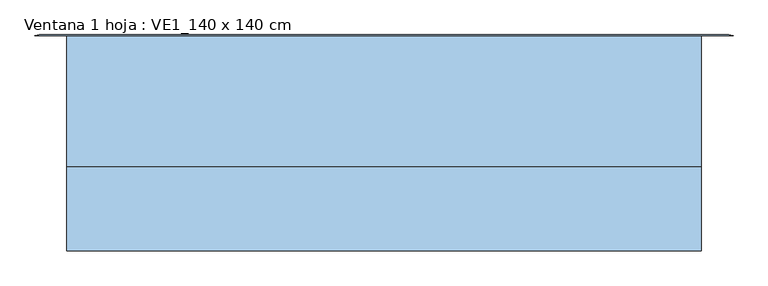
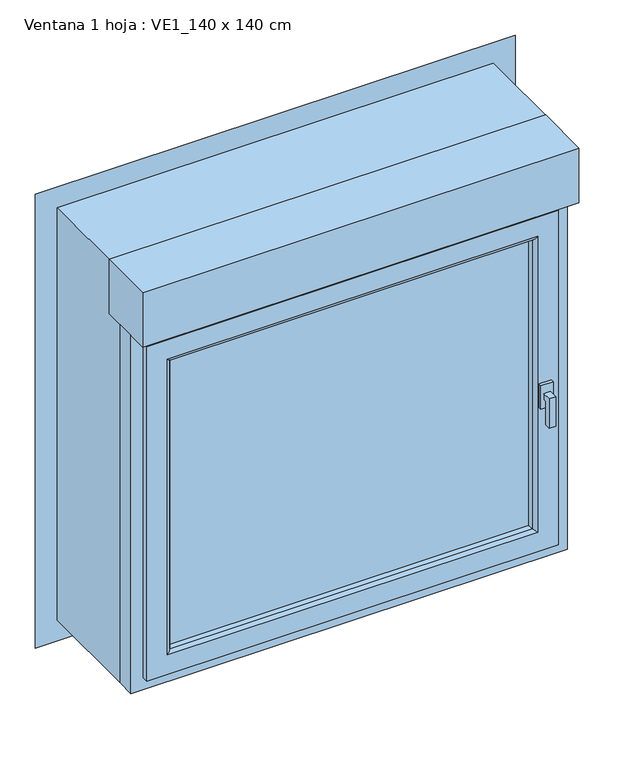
"""IFC4 building model written with IfcOpenShell, lengths in millimetres: window geometry, Ventana 1 hoja : VE1_140 x 140 cm."""

from ifc_helpers import new_model, si_unit, frame, origin, place, context, project, spatial, polyline, ellipse_curve, outline, extrude, source, transform, mapped, element, save
from ifc_brep_helpers import plane_surface, cylinder_surface, advanced_brep


def ventana_1_hoja_ve1_140_x_140_cm_f22eddc7(model_context):
    return source(origin(), model_context, "Body", "SolidModel", [
        extrude(outline(polyline([(-234.0, 1377.5), (-234.0, 1357.5), (-244.0, 1357.5), (-244.0, 1277.5), (-264.0, 1277.5), (-264.0, 1377.5), (-234.0, 1377.5)])), frame((608.5, 0.0, 0.0), z_axis=(1.0, 0.0, 0.0), x_axis=(0.0, 1.0, 0.0)), (0.0, 0.0, 1.0), 20.0),
        extrude(outline(polyline([(638.5, -234.0), (598.5, -234.0), (598.5, -224.0), (638.5, -224.0), (638.5, -234.0)])), frame((0.0, 0.0, 1327.5), z_axis=(0.0, 0.0, 1.0), x_axis=(1.0, 0.0, 0.0)), (0.0, 0.0, 1.0), 80.0),
        extrude(outline(polyline([(-599.0, -176.0), (599.0, -176.0), (599.0, -206.0), (-599.0, -206.0), (-599.0, -176.0)])), frame((0.0, 0.0, 901.0), z_axis=(0.0, 0.0, 1.0), x_axis=(1.0, 0.0, 0.0)), (0.0, 0.0, 1.0), 1013.0),
        advanced_brep(
        [(-638.0710678, -147.9289322, 1953.0710678), (-645.1421356, -145.0, 1960.1421356), (645.1421356, -145.0, 1960.1421356), (638.0710678, -147.9289322, 1953.0710678), (-631.6213203, -158.0, 1946.6213203), (631.6213203, -158.0, 1946.6213203), (-700.0, -145.0, 2015.0), (-700.0, -205.0, 2015.0), (700.0, -205.0, 2015.0), (700.0, -145.0, 2015.0), (645.1421356, -145.0, 854.8578644), (638.0710678, -147.9289322, 861.9289322), (631.6213203, -158.0, 868.3786797), (700.0, -205.0, 800.0), (700.0, -145.0, 800.0), (-645.1421356, -145.0, 854.8578644), (-638.0710678, -147.9289322, 861.9289322), (-631.6213203, -158.0, 868.3786797), (-700.0, -205.0, 800.0), (-700.0, -145.0, 800.0), (-594.4125193, -158.0, 1909.4125193), (-594.4125193, -158.0, 905.5874807), (594.4125193, -158.0, 905.5874807), (594.4125193, -158.0, 1909.4125193), (660.0, -205.0, 1975.0), (660.0, -205.0, 840.0), (-660.0, -205.0, 840.0), (-660.0, -205.0, 1975.0), (-581.6132918, -165.1782499, 1896.6132918), (581.6132918, -165.1782499, 1896.6132918), (-575.0, -176.0, 1890.0), (575.0, -176.0, 1890.0), (-599.0, -206.0, 1914.0), (-599.0, -176.0, 1914.0), (599.0, -176.0, 1914.0), (599.0, -206.0, 1914.0), (-660.0, -224.0, 1975.0), (660.0, -224.0, 1975.0), (581.6132918, -165.1782499, 918.3867082), (575.0, -176.0, 925.0), (599.0, -176.0, 901.0), (599.0, -206.0, 901.0), (660.0, -224.0, 840.0), (-581.6132918, -165.1782499, 918.3867082), (-575.0, -176.0, 925.0), (-599.0, -176.0, 901.0), (-599.0, -206.0, 901.0), (-660.0, -224.0, 840.0), (594.4125193, -224.0, 1909.4125193), (594.4125193, -224.0, 905.5874807), (-594.4125193, -224.0, 905.5874807), (-594.4125193, -224.0, 1909.4125193), (-581.6132918, -216.8217501, 1896.6132918), (-575.0, -206.0, 1890.0), (575.0, -206.0, 1890.0), (581.6132918, -216.8217501, 1896.6132918), (575.0, -206.0, 925.0), (581.6132918, -216.8217501, 918.3867082), (-575.0, -206.0, 925.0), (-581.6132918, -216.8217501, 918.3867082)],
        [
            (0, 1, ellipse_curve(frame((-645.1421356, -155.0, 1960.1421356), z_axis=(0.7071067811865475, 0.0, 0.7071067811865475), x_axis=(-0.7071067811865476, 0.0, 0.7071067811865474)), 14.1421356, 10.0)),
            (1, 2),
            (2, 3, ellipse_curve(frame((645.1421356, -155.0, 1960.1421356), z_axis=(-0.7071067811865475, 0.0, 0.7071067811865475), x_axis=(-0.7071067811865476, 0.0, -0.7071067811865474)), 14.1421356, 10.0)),
            (3, 0),
            (4, 0),
            (3, 5),
            (5, 4),
            (6, 7),
            (7, 8),
            (8, 9),
            (9, 6),
            (2, 10),
            (10, 11, ellipse_curve(frame((645.1421356, -155.0, 854.8578644), z_axis=(0.7071067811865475, 0.0, 0.7071067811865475), x_axis=(-0.7071067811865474, 0.0, 0.7071067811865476)), 14.1421356, 10.0)),
            (11, 3),
            (11, 12),
            (12, 5),
            (8, 13),
            (13, 14),
            (14, 9),
            (10, 15),
            (15, 16, ellipse_curve(frame((-645.1421356, -155.0, 854.8578644), z_axis=(0.7071067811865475, 0.0, -0.7071067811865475), x_axis=(0.7071067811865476, 0.0, 0.7071067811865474)), 14.1421356, 10.0)),
            (16, 11),
            (16, 17),
            (17, 12),
            (13, 18),
            (18, 19),
            (19, 14),
            (19, 6),
            (1, 15),
            (0, 16),
            (4, 17),
            (20, 21),
            (21, 22),
            (22, 23),
            (23, 20),
            (7, 18),
            (24, 25),
            (25, 26),
            (26, 27),
            (27, 24),
            (28, 20, ellipse_curve(frame((-594.4125193, -173.0, 1909.4125193), z_axis=(0.7071067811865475, 0.0, 0.7071067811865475), x_axis=(-0.7071067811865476, 0.0, 0.7071067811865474)), 21.2132034, 15.0)),
            (23, 29, ellipse_curve(frame((594.4125193, -173.0, 1909.4125193), z_axis=(-0.7071067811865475, 0.0, 0.7071067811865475), x_axis=(-0.7071067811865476, 0.0, -0.7071067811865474)), 21.2132034, 15.0)),
            (29, 28),
            (30, 28),
            (29, 31),
            (31, 30),
            (32, 33),
            (33, 34),
            (34, 35),
            (35, 32),
            (27, 36),
            (36, 37),
            (37, 24),
            (22, 38, ellipse_curve(frame((594.4125193, -173.0, 905.5874807), z_axis=(0.7071067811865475, 0.0, 0.7071067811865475), x_axis=(-0.7071067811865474, 0.0, 0.7071067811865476)), 21.2132034, 15.0)),
            (38, 29),
            (38, 39),
            (39, 31),
            (34, 40),
            (40, 41),
            (41, 35),
            (37, 42),
            (42, 25),
            (21, 43, ellipse_curve(frame((-594.4125193, -173.0, 905.5874807), z_axis=(0.7071067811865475, 0.0, -0.7071067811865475), x_axis=(0.7071067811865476, 0.0, 0.7071067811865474)), 21.2132034, 15.0)),
            (43, 38),
            (43, 44),
            (44, 39),
            (40, 45),
            (45, 46),
            (46, 41),
            (42, 47),
            (47, 26),
            (28, 43),
            (30, 44),
            (33, 45),
            (32, 46),
            (36, 47),
            (48, 49),
            (49, 50),
            (50, 51),
            (51, 48),
            (52, 53),
            (53, 54),
            (54, 55),
            (55, 52),
            (51, 52, ellipse_curve(frame((-594.4125193, -209.0, 1909.4125193), z_axis=(0.7071067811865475, 0.0, 0.7071067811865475), x_axis=(-0.7071067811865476, 0.0, 0.7071067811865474)), 21.2132034, 15.0)),
            (55, 48, ellipse_curve(frame((594.4125193, -209.0, 1909.4125193), z_axis=(-0.7071067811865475, 0.0, 0.7071067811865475), x_axis=(-0.7071067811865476, 0.0, -0.7071067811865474)), 21.2132034, 15.0)),
            (54, 56),
            (56, 57),
            (57, 55),
            (57, 49, ellipse_curve(frame((594.4125193, -209.0, 905.5874807), z_axis=(0.7071067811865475, 0.0, 0.7071067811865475), x_axis=(-0.7071067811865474, 0.0, 0.7071067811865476)), 21.2132034, 15.0)),
            (56, 58),
            (58, 59),
            (59, 57),
            (59, 50, ellipse_curve(frame((-594.4125193, -209.0, 905.5874807), z_axis=(0.7071067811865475, 0.0, -0.7071067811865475), x_axis=(0.7071067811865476, 0.0, 0.7071067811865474)), 21.2132034, 15.0)),
            (53, 58),
            (52, 59),
        ],
        [
            cylinder_surface(frame((-700.0, -155.0, 1960.1421356), z_axis=(-1.0000000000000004, 0.0, 0.0), x_axis=(0.0, 0.0, 1.0)), 10.0),
            plane_surface(frame((-638.0710678, -147.9289322, 1953.0710678), z_axis=(0.0, 0.5393066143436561, -0.8421094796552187), x_axis=(1.0, 0.0, 0.0))),
            plane_surface(frame((-700.0, -205.0, 2015.0), z_axis=(0.0, 0.0, 1.0), x_axis=(1.0, 0.0, 0.0))),
            cylinder_surface(frame((645.1421356, -155.0, 2015.0), z_axis=(0.0, 0.0, 1.0), x_axis=(1.0000000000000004, 0.0, 0.0)), 10.0),
            plane_surface(frame((638.0710678, -147.9289322, 1953.0710678), z_axis=(-0.8421094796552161, 0.5393066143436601, 0.0), x_axis=(0.0, 0.0, -1.0))),
            plane_surface(frame((700.0, -205.0, 2015.0), z_axis=(1.0, 0.0, 0.0), x_axis=(0.0, 0.0, -1.0))),
            cylinder_surface(frame((700.0, -155.0, 854.8578644), z_axis=(1.0000000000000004, 0.0, 0.0), x_axis=(0.0, 0.0, -1.0)), 10.0),
            plane_surface(frame((638.0710678, -147.9289322, 861.9289322), z_axis=(0.0, 0.5393066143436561, 0.8421094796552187), x_axis=(-1.0, 0.0, 0.0))),
            plane_surface(frame((700.0, -205.0, 800.0), z_axis=(0.0, 0.0, -1.0), x_axis=(-1.0, 0.0, 0.0))),
            plane_surface(frame((-700.0, -145.0, 800.0), z_axis=(0.0, 1.0, 0.0), x_axis=(0.0, 0.0, 1.0))),
            cylinder_surface(frame((-645.1421356, -155.0, 800.0), z_axis=(0.0, 0.0, -1.0), x_axis=(-1.0000000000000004, 0.0, 0.0)), 10.0),
            plane_surface(frame((-638.0710678, -147.9289322, 861.9289322), z_axis=(0.842109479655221, 0.5393066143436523, 0.0), x_axis=(0.0, 0.0, 1.0))),
            plane_surface(frame((-631.6213203, -158.0, 868.3786797), z_axis=(0.0, 1.0, 0.0), x_axis=(0.0, 0.0, 1.0))),
            plane_surface(frame((-660.0, -205.0, 840.0), z_axis=(0.0, -1.0, 0.0), x_axis=(0.0, 0.0, 1.0))),
            plane_surface(frame((-700.0, -205.0, 800.0), z_axis=(-1.0, 0.0, 0.0), x_axis=(0.0, 0.0, 1.0))),
            cylinder_surface(frame((-700.0, -173.0, 1909.4125193), z_axis=(-1.0000000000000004, 0.0, 0.0), x_axis=(0.0, 0.0, 1.0)), 15.0),
            plane_surface(frame((-581.6132918, -165.1782499, 1896.6132918), z_axis=(0.0, 0.5214500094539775, -0.8532818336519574), x_axis=(1.0, 0.0, 0.0))),
            plane_surface(frame((-599.0, -176.0, 1914.0), z_axis=(0.0, 0.0, -1.0), x_axis=(1.0, 0.0, 0.0))),
            plane_surface(frame((-660.0, -224.0, 1975.0), z_axis=(0.0, 0.0, 1.0), x_axis=(1.0, 0.0, 0.0))),
            cylinder_surface(frame((594.4125193, -173.0, 2015.0), z_axis=(0.0, 0.0, 1.0), x_axis=(1.0000000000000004, 0.0, 0.0)), 15.0),
            plane_surface(frame((581.6132918, -165.1782499, 1896.6132918), z_axis=(-0.853281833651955, 0.5214500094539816, 0.0), x_axis=(0.0, 0.0, -1.0))),
            plane_surface(frame((599.0, -176.0, 1914.0), z_axis=(-1.0, 0.0, 0.0), x_axis=(0.0, 0.0, -1.0))),
            plane_surface(frame((660.0, -224.0, 1975.0), z_axis=(1.0, 0.0, 0.0), x_axis=(0.0, 0.0, -1.0))),
            cylinder_surface(frame((700.0, -173.0, 905.5874807), z_axis=(1.0000000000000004, 0.0, 0.0), x_axis=(0.0, 0.0, -1.0)), 15.0),
            plane_surface(frame((581.6132918, -165.1782499, 918.3867082), z_axis=(0.0, 0.5214500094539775, 0.8532818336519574), x_axis=(-1.0, 0.0, 0.0))),
            plane_surface(frame((599.0, -176.0, 901.0), z_axis=(0.0, 0.0, 1.0), x_axis=(-1.0, 0.0, 0.0))),
            plane_surface(frame((660.0, -224.0, 840.0), z_axis=(0.0, 0.0, -1.0), x_axis=(-1.0, 0.0, 0.0))),
            cylinder_surface(frame((-594.4125193, -173.0, 800.0), z_axis=(0.0, 0.0, -1.0), x_axis=(-1.0000000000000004, 0.0, 0.0)), 15.0),
            plane_surface(frame((-581.6132918, -165.1782499, 918.3867082), z_axis=(0.8532818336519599, 0.5214500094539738, 0.0), x_axis=(0.0, 0.0, 1.0))),
            plane_surface(frame((-575.0, -176.0, 925.0), z_axis=(0.0, -1.0, 0.0), x_axis=(0.0, 0.0, 1.0))),
            plane_surface(frame((-599.0, -176.0, 901.0), z_axis=(1.0, 0.0, 0.0), x_axis=(0.0, 0.0, 1.0))),
            plane_surface(frame((-594.4125193, -224.0, 905.5874807), z_axis=(0.0, -1.0, 0.0), x_axis=(0.0, 0.0, 1.0))),
            plane_surface(frame((-660.0, -224.0, 840.0), z_axis=(-1.0, 0.0, 0.0), x_axis=(0.0, 0.0, 1.0))),
            plane_surface(frame((-575.0, -206.0, 1890.0), z_axis=(0.0, -0.5214500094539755, -0.8532818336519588), x_axis=(1.0, 0.0, 0.0))),
            cylinder_surface(frame((-700.0, -209.0, 1909.4125193), z_axis=(-1.0000000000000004, 0.0, 0.0), x_axis=(0.0, 0.0, 1.0)), 15.0),
            plane_surface(frame((575.0, -206.0, 1890.0), z_axis=(-0.8532818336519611, -0.5214500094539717, 0.0), x_axis=(0.0, 0.0, -1.0))),
            cylinder_surface(frame((594.4125193, -209.0, 2015.0), z_axis=(0.0, 0.0, 1.0), x_axis=(1.0000000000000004, 0.0, 0.0)), 15.0),
            plane_surface(frame((575.0, -206.0, 925.0), z_axis=(0.0, -0.5214500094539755, 0.8532818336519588), x_axis=(-1.0, 0.0, 0.0))),
            cylinder_surface(frame((700.0, -209.0, 905.5874807), z_axis=(1.0000000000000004, 0.0, 0.0), x_axis=(0.0, 0.0, -1.0)), 15.0),
            plane_surface(frame((-599.0, -206.0, 901.0), z_axis=(0.0, 1.0, 0.0), x_axis=(0.0, 0.0, 1.0))),
            plane_surface(frame((-575.0, -206.0, 925.0), z_axis=(0.8532818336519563, -0.5214500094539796, 0.0), x_axis=(0.0, 0.0, 1.0))),
            cylinder_surface(frame((-594.4125193, -209.0, 800.0), z_axis=(0.0, 0.0, -1.0), x_axis=(-1.0000000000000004, 0.0, 0.0)), 15.0),
        ],
        [
            (0, [[1, 2, 3, 4]]),
            (1, [[5, -4, 6, 7]]),
            (2, [[8, 9, 10, 11]]),
            (3, [[-3, 12, 13, 14]]),
            (4, [[-6, -14, 15, 16]]),
            (5, [[-10, 17, 18, 19]]),
            (6, [[-13, 20, 21, 22]]),
            (7, [[-15, -22, 23, 24]]),
            (8, [[-18, 25, 26, 27]]),
            (9, [[-19, -27, 28, -11], [29, -20, -12, -2]]),
            (10, [[-21, -29, -1, 30]]),
            (11, [[-23, -30, -5, 31]]),
            (12, [[-16, -24, -31, -7], [32, 33, 34, 35]]),
            (13, [[36, -25, -17, -9], [37, 38, 39, 40]]),
            (14, [[-26, -36, -8, -28]]),
            (15, [[41, -35, 42, 43]]),
            (16, [[44, -43, 45, 46]]),
            (17, [[47, 48, 49, 50]]),
            (18, [[51, 52, 53, -40]]),
            (19, [[-42, -34, 54, 55]]),
            (20, [[-45, -55, 56, 57]]),
            (21, [[-49, 58, 59, 60]]),
            (22, [[-53, 61, 62, -37]]),
            (23, [[-54, -33, 63, 64]]),
            (24, [[-56, -64, 65, 66]]),
            (25, [[-59, 67, 68, 69]]),
            (26, [[-62, 70, 71, -38]]),
            (27, [[-63, -32, -41, 72]]),
            (28, [[-65, -72, -44, 73]]),
            (29, [[74, -67, -58, -48], [-57, -66, -73, -46]]),
            (30, [[-68, -74, -47, 75]]),
            (31, [[76, -70, -61, -52], [77, 78, 79, 80]]),
            (32, [[-71, -76, -51, -39]]),
            (33, [[81, 82, 83, 84]]),
            (34, [[85, -84, 86, -80]]),
            (35, [[-83, 87, 88, 89]]),
            (36, [[-86, -89, 90, -77]]),
            (37, [[-88, 91, 92, 93]]),
            (38, [[-90, -93, 94, -78]]),
            (39, [[-60, -69, -75, -50], [95, -91, -87, -82]]),
            (40, [[-92, -95, -81, 96]]),
            (41, [[-94, -96, -85, -79]]),
        ],
    ),
        extrude(outline(polyline([(-700.0, -269.96), (-700.0, -84.98), (700.0, -84.98), (700.0, -269.96), (-700.0, -269.96)])), frame((0.0, 0.0, 2015.0), z_axis=(0.0, 0.0, 1.0), x_axis=(1.0, 0.0, 0.0)), (0.0, 0.0, 1.0), 185.0),
        advanced_brep(
        [(-770.0, 205.0, 2270.0), (-760.0, 207.0119424, 2260.0), (-760.0, 207.0119424, 740.0), (-770.0, 205.0, 730.0), (760.0, 207.0119424, 2260.0), (760.0, 207.0119424, 740.0), (-698.0, 207.0119424, 2198.0), (-698.0, 207.0119424, 802.0), (698.0, 207.0119424, 802.0), (698.0, 207.0119424, 2198.0), (770.0, 205.0, 730.0), (770.0, 205.0, 2270.0), (700.0, 205.0, 2200.0), (700.0, 205.0, 800.0), (-700.0, 205.0, 800.0), (-700.0, 205.0, 2200.0), (-698.0, -145.0, 2198.0), (-698.0, -145.0, 802.0), (698.0, -145.0, 802.0), (698.0, -145.0, 2198.0), (700.0, -145.0, 800.0), (700.0, -145.0, 2200.0), (-700.0, -145.0, 800.0), (-700.0, -145.0, 2200.0)],
        [
            (0, 1, ellipse_curve(frame((-760.0, 181.1543647, 2260.0), z_axis=(-0.7071067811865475, 0.0, -0.7071067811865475), x_axis=(-0.7071067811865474, 0.0, 0.7071067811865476)), 36.568137, 25.8575776)),
            (1, 2),
            (2, 3, ellipse_curve(frame((-760.0, 181.1543647, 740.0), z_axis=(-0.7071067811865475, 0.0, 0.7071067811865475), x_axis=(0.7071067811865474, 0.0, 0.7071067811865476)), 36.568137, 25.8575776)),
            (3, 0),
            (4, 5),
            (5, 2),
            (1, 4),
            (6, 7),
            (7, 8),
            (8, 9),
            (9, 6),
            (5, 10, ellipse_curve(frame((760.0, 181.1543647, 740.0), z_axis=(-0.7071067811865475, 0.0, -0.7071067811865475), x_axis=(-0.7071067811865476, 0.0, 0.7071067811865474)), 36.568137, 25.8575776)),
            (10, 3),
            (10, 11),
            (11, 0),
            (12, 13),
            (13, 14),
            (14, 15),
            (15, 12),
            (4, 11, ellipse_curve(frame((760.0, 181.1543647, 2260.0), z_axis=(0.7071067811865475, 0.0, -0.7071067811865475), x_axis=(-0.7071067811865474, 0.0, -0.7071067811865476)), 36.568137, 25.8575776)),
            (6, 16),
            (16, 17),
            (17, 7),
            (17, 18),
            (18, 8),
            (18, 19),
            (19, 9),
            (20, 13),
            (12, 21),
            (21, 20),
            (22, 14),
            (20, 22),
            (23, 15),
            (22, 23),
            (21, 23),
            (16, 19),
        ],
        [
            cylinder_surface(frame((-760.0, 181.1543647, 2200.0), z_axis=(0.0, 0.0, 1.0), x_axis=(0.0, 1.0, 0.0)), 25.8575776),
            plane_surface(frame((698.0, 207.0119424, 802.0), z_axis=(0.0, 1.0, 0.0), x_axis=(0.0, 0.0, 1.0))),
            cylinder_surface(frame((-700.0, 181.1543647, 740.0), z_axis=(-1.0, 0.0, 0.0), x_axis=(0.0, 1.0, 0.0)), 25.8575776),
            plane_surface(frame((770.0, 205.0, 730.0), z_axis=(0.0, -1.0, 0.0), x_axis=(0.0, 0.0, 1.0))),
            cylinder_surface(frame((760.0, 181.1543647, 800.0), z_axis=(0.0, 0.0, -1.0), x_axis=(0.0, 1.0, 0.0)), 25.8575776),
            plane_surface(frame((-698.0, -145.0, 2198.0), z_axis=(1.0, 0.0, 0.0), x_axis=(0.0, 0.0, -1.0))),
            plane_surface(frame((-698.0, -145.0, 802.0), z_axis=(0.0, 0.0, 1.0), x_axis=(1.0, 0.0, 0.0))),
            plane_surface(frame((698.0, -145.0, 802.0), z_axis=(-1.0, 0.0, 0.0), x_axis=(0.0, 0.0, 1.0))),
            plane_surface(frame((700.0, 205.0, 800.0), z_axis=(1.0, 0.0, 0.0), x_axis=(0.0, 0.0, 1.0))),
            plane_surface(frame((-700.0, 205.0, 800.0), z_axis=(0.0, 0.0, -1.0), x_axis=(1.0, 0.0, 0.0))),
            plane_surface(frame((-700.0, 205.0, 2200.0), z_axis=(-1.0, 0.0, 0.0), x_axis=(0.0, 0.0, -1.0))),
            plane_surface(frame((700.0, -145.0, 800.0), z_axis=(0.0, -1.0, 0.0), x_axis=(0.0, 0.0, 1.0))),
            cylinder_surface(frame((700.0, 181.1543647, 2260.0), z_axis=(1.0, 0.0, 0.0), x_axis=(0.0, 1.0, 0.0)), 25.8575776),
            plane_surface(frame((700.0, 205.0, 2200.0), z_axis=(0.0, 0.0, 1.0), x_axis=(-1.0, 0.0, 0.0))),
            plane_surface(frame((698.0, -145.0, 2198.0), z_axis=(0.0, 0.0, -1.0), x_axis=(-1.0, 0.0, 0.0))),
        ],
        [
            (0, [[1, 2, 3, 4]]),
            (1, [[5, 6, -2, 7], [8, 9, 10, 11]]),
            (2, [[-3, -6, 12, 13]]),
            (3, [[-4, -13, 14, 15], [16, 17, 18, 19]]),
            (4, [[-12, -5, 20, -14]]),
            (5, [[21, 22, 23, -8]]),
            (6, [[-23, 24, 25, -9]]),
            (7, [[-25, 26, 27, -10]]),
            (8, [[28, -16, 29, 30]]),
            (9, [[31, -17, -28, 32]]),
            (10, [[33, -18, -31, 34]]),
            (11, [[-34, -32, -30, 35], [-26, -24, -22, 36]]),
            (12, [[-20, -7, -1, -15]]),
            (13, [[-29, -19, -33, -35]]),
            (14, [[-27, -36, -21, -11]]),
        ],
    ),
    ])


if __name__ == "__main__":
    model = new_model("IFC4")
    model_context = context("Model", 3, world=origin())
    ifc_project = project(units=[si_unit("LENGTHUNIT", "METRE", prefix="MILLI")], contexts=[model_context])
    site = spatial("IfcSite", under=ifc_project)
    building = spatial("IfcBuilding", under=site)
    placement = place(None, origin())
    ventana_1_hoja_ve1_140_x_140_cm_shape = ventana_1_hoja_ve1_140_x_140_cm_f22eddc7(model_context)
    element("IfcWindow", 1, ObjectType="Ventana 1 hoja : VE1_140 x 140 cm", at=placement, inside=building, context=model_context, shape_type="MappedRepresentation", body=[
        mapped(ventana_1_hoja_ve1_140_x_140_cm_shape, transform((0.0, 0.0, 0.0), x_axis=(1.0, 0.0, 0.0), y_axis=(0.0, 1.0, 0.0), z_axis=(0.0, 0.0, 1.0))),
    ])
    save(model, "model.ifc")
